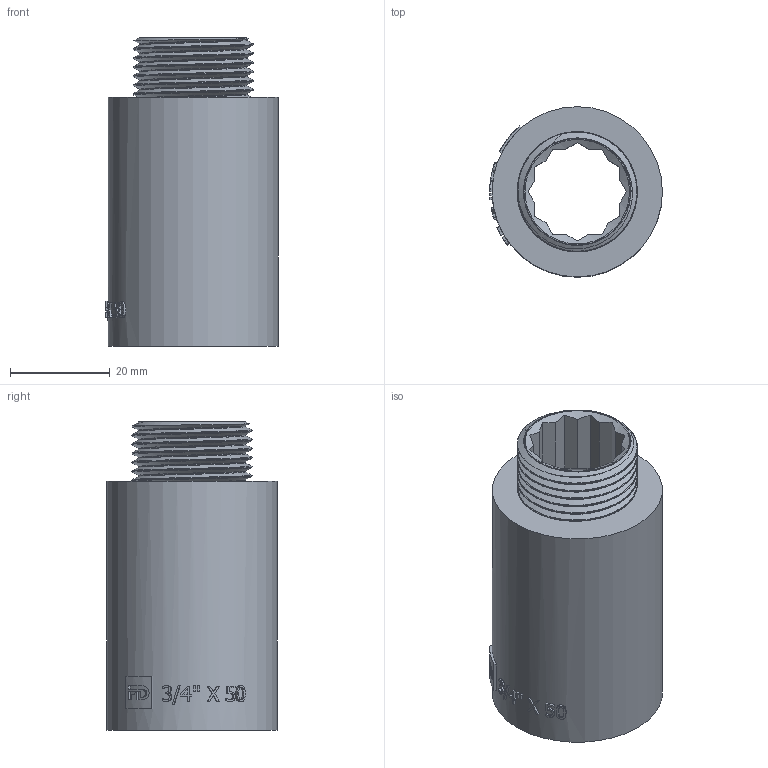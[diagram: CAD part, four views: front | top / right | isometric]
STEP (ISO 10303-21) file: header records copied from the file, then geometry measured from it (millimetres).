
FILE_DESCRIPTION(/* description */ (''),/* implementation_level */ '2;1');
FILE_NAME(/* name */ 'C:\Users\Doom\Desktop\Фадотех\Резьба\UN50 20.03.2020\UN50 20.03.2020.stp',/* time_stamp */ '2022-01-22T13:47:45+02:00',/* author */ ('Doom'),/* organization */ (''),/* preprocessor_version */ 'ST-DEVELOPER v18',/* originating_system */ 'Autodesk Inventor 2020',/* authorisation */ '');
FILE_SCHEMA (('AUTOMOTIVE_DESIGN { 1 0 10303 214 3 1 1 }'));
Length unit declared in the file: millimetre
Products named in the file (1): UD40 18.03.2020
Bounding box: 34.7 x 34.2 x 62 mm (x, y, z)
Volume: 24263.5 mm3; surface area: 19257 mm2
Topology: 3 solids, 3 shells, 205 faces, 566 edges, 380 vertices
Faces by surface type: plane 86, bspline 77, cylinder 38, cone 4
Full cylindrical faces by diameter (mm): 21.44 x2, 23.75 x10, 24.1 x1, 24.13 x5, 26.44 x2, 34.2 x1
Entity records: 17486 total; most frequent: CARTESIAN_POINT 12885, ORIENTED_EDGE 1124, DIRECTION 664, EDGE_CURVE 562, VERTEX_POINT 378, AXIS2_PLACEMENT_3D 227, EDGE_LOOP 226, LINE 210
